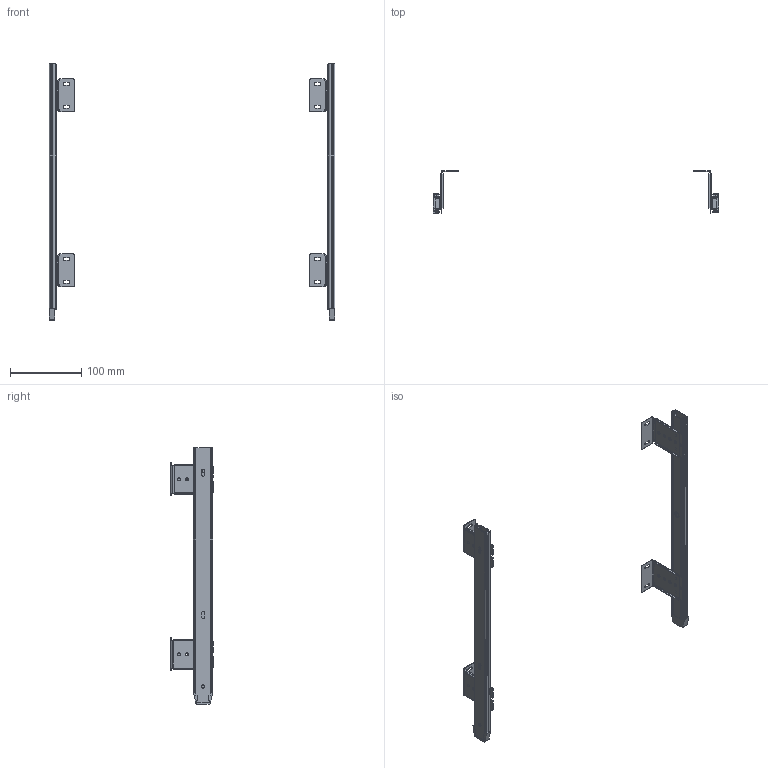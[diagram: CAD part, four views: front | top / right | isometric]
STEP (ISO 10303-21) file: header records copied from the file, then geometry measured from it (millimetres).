
FILE_DESCRIPTION(/* description */ (''),/* implementation_level */ '2;1');
FILE_NAME(/* name */ 'D:\$Workingspace\Designs\Katalog\Cadsoft\GTV Prowadnice\Prowadnice GTV_bryły 3D\PK-0-000-027_58.stp',/* time_stamp */ '2016-11-22T08:37:40+01:00',/* author */ ('tomaszw'),/* organization */ (''),/* preprocessor_version */ 'ST-DEVELOPER v16.1',/* originating_system */ 'Autodesk Inventor 2016',/* authorisation */ '');
FILE_SCHEMA (('AUTOMOTIVE_DESIGN { 1 0 10303 214 3 1 1 }'));
Length unit declared in the file: millimetre
Products named in the file (5): PK-0-000-027_1_1; PK-0-000-027_3_1; PK-0-000-027_2P; PK-0-000-027_2L; PK-0-000-027
Assembly tree (8 placements, depth 2):
  PK-0-000-027
    PK-0-000-027_1_1  x2
    PK-0-000-027_3_1  x4
    PK-0-000-027_2P
    PK-0-000-027_2L
Bounding box: 400 x 59 x 359 mm (x, y, z)
Volume: 70814.8 mm3; surface area: 144235.3 mm2
Topology: 14 solids, 14 shells, 424 faces, 1192 edges, 804 vertices
Faces by surface type: plane 244, cylinder 172, bspline 8
Full cylindrical faces by diameter (mm): 3.242 x4, 4 x16, 4.4 x16, 4.5 x2, 8.3 x2
Entity records: 8387 total; most frequent: CARTESIAN_POINT 1574, DIRECTION 1358, ORIENTED_EDGE 1284, EDGE_CURVE 642, AXIS2_PLACEMENT_3D 474, VERTEX_POINT 450, LINE 410, VECTOR 410
